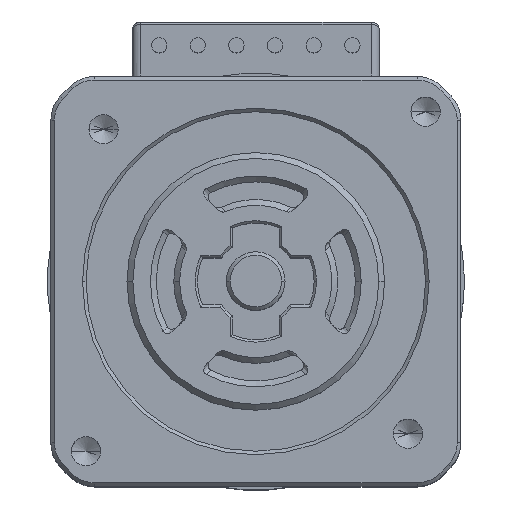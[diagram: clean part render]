
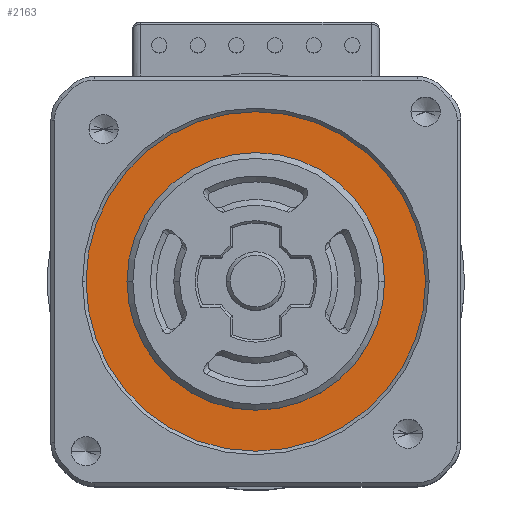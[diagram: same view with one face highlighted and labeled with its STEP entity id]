
A CAD part, top view. The second image highlights one B-rep face of the part: STEP entity #2163.
In plain terms, the highlighted planar face has unit normal (0, 0, 1).
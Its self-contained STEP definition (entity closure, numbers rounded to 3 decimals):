
#43 = CARTESIAN_POINT ( 'NONE',  ( 14.5, 0., 7.9 ) ) ;
#190 = CIRCLE ( 'NONE', #2552, 14.5 ) ;
#232 = CARTESIAN_POINT ( 'NONE',  ( 11., 0., 7.9 ) ) ;
#391 = CARTESIAN_POINT ( 'NONE',  ( -14.5, 0., 7.9 ) ) ;
#571 = DIRECTION ( 'NONE',  ( 0., 0., 1. ) ) ;
#698 = AXIS2_PLACEMENT_3D ( 'NONE', #6411, #1217, #7244 ) ;
#859 = DIRECTION ( 'NONE',  ( 1., 0., 0. ) ) ;
#1023 = EDGE_CURVE ( 'NONE', #10255, #9429, #190, .T. ) ;
#1217 = DIRECTION ( 'NONE',  ( 0., 0., 1. ) ) ;
#1301 = ORIENTED_EDGE ( 'NONE', *, *, #1023, .T. ) ;
#1921 = CARTESIAN_POINT ( 'NONE',  ( 0., 0., 7.9 ) ) ;
#2001 = CIRCLE ( 'NONE', #9918, 14.5 ) ;
#2075 = AXIS2_PLACEMENT_3D ( 'NONE', #2530, #6056, #859 ) ;
#2163 = ADVANCED_FACE ( 'NONE', ( #10452, #5857 ), #2572, .T. ) ;
#2530 = CARTESIAN_POINT ( 'NONE',  ( 0., 0., 7.9 ) ) ;
#2552 = AXIS2_PLACEMENT_3D ( 'NONE', #5152, #11179, #6014 ) ;
#2572 = PLANE ( 'NONE',  #2075 ) ;
#2802 = DIRECTION ( 'NONE',  ( 1., 0., 0. ) ) ;
#2966 = ORIENTED_EDGE ( 'NONE', *, *, #6129, .F. ) ;
#3724 = CIRCLE ( 'NONE', #6447, 11. ) ;
#3904 = VERTEX_POINT ( 'NONE', #8046 ) ;
#5138 = EDGE_CURVE ( 'NONE', #9429, #10255, #2001, .T. ) ;
#5152 = CARTESIAN_POINT ( 'NONE',  ( 0., 0., 7.9 ) ) ;
#5765 = CARTESIAN_POINT ( 'NONE',  ( 0., 0., 7.9 ) ) ;
#5857 = FACE_OUTER_BOUND ( 'NONE', #10266, .T. ) ;
#6014 = DIRECTION ( 'NONE',  ( 1., 0., 0. ) ) ;
#6056 = DIRECTION ( 'NONE',  ( 0., 0., 1. ) ) ;
#6129 = EDGE_CURVE ( 'NONE', #6671, #3904, #7884, .T. ) ;
#6411 = CARTESIAN_POINT ( 'NONE',  ( 0., 0., 7.9 ) ) ;
#6447 = AXIS2_PLACEMENT_3D ( 'NONE', #5765, #571, #6613 ) ;
#6613 = DIRECTION ( 'NONE',  ( 1., 0., 0. ) ) ;
#6651 = EDGE_LOOP ( 'NONE', ( #9683, #2966 ) ) ;
#6671 = VERTEX_POINT ( 'NONE', #232 ) ;
#6893 = EDGE_CURVE ( 'NONE', #3904, #6671, #3724, .T. ) ;
#7244 = DIRECTION ( 'NONE',  ( 1., 0., 0. ) ) ;
#7884 = CIRCLE ( 'NONE', #698, 11. ) ;
#7964 = DIRECTION ( 'NONE',  ( 0., 0., 1. ) ) ;
#8046 = CARTESIAN_POINT ( 'NONE',  ( -11., 0., 7.9 ) ) ;
#8752 = ORIENTED_EDGE ( 'NONE', *, *, #5138, .T. ) ;
#9429 = VERTEX_POINT ( 'NONE', #391 ) ;
#9683 = ORIENTED_EDGE ( 'NONE', *, *, #6893, .F. ) ;
#9918 = AXIS2_PLACEMENT_3D ( 'NONE', #1921, #7964, #2802 ) ;
#10255 = VERTEX_POINT ( 'NONE', #43 ) ;
#10266 = EDGE_LOOP ( 'NONE', ( #1301, #8752 ) ) ;
#10452 = FACE_BOUND ( 'NONE', #6651, .T. ) ;
#11179 = DIRECTION ( 'NONE',  ( 0., 0., 1. ) ) ;
